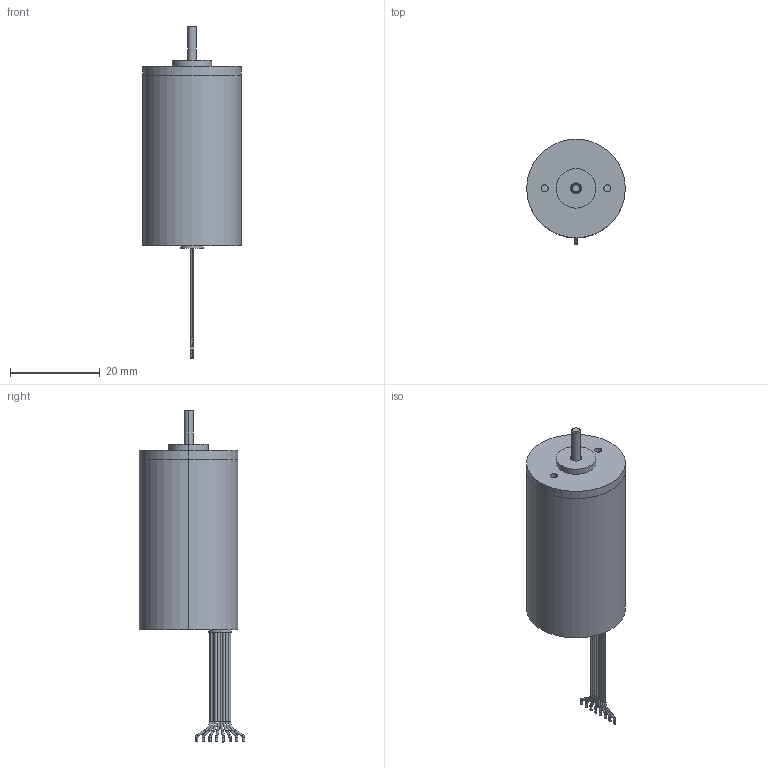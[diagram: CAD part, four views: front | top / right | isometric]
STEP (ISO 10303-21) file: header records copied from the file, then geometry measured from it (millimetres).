
FILE_DESCRIPTION (( 'STEP AP203' ), '1' );
FILE_NAME ('R22BLB9L2.STEP', '2018-05-31T08:16:27', ( 'User' ), ( 'China' ), 'SwSTEP 2.0', 'SolidWorks 2012', '' );
FILE_SCHEMA (( 'CONFIG_CONTROL_DESIGN' ));
Length unit declared in the file: millimetre
Products named in the file (1): R22BLB9L2
Bounding box: 22 x 23.5 x 74.02 mm (x, y, z)
Surface area: 4502.1 mm2 (no closed solid volume)
Topology: 0 solids, 4 shells, 113 faces, 244 edges, 146 vertices
Faces by surface type: cylinder 64, torus 32, plane 15, cone 2
Entity records: 3184 total; most frequent: DIRECTION 650, CARTESIAN_POINT 504, ORIENTED_EDGE 472, AXIS2_PLACEMENT_3D 292, EDGE_CURVE 244, CIRCLE 178, VERTEX_POINT 146, EDGE_LOOP 128
